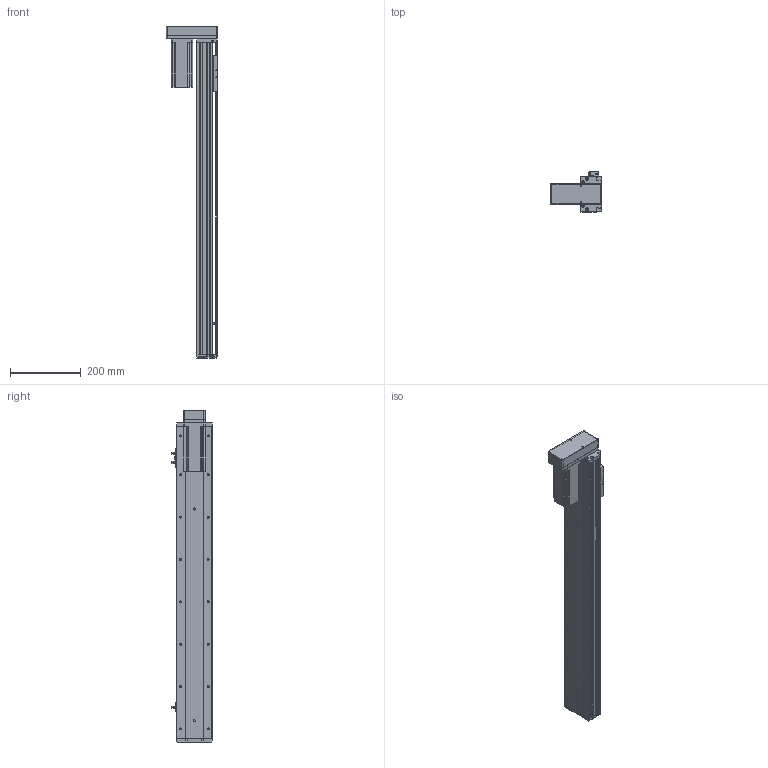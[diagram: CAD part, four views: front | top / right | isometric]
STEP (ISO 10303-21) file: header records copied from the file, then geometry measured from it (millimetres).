
FILE_DESCRIPTION (( 'STEP AP214' ), '1' );
FILE_NAME ('KSD100S-S700-MD-CM.STEP', '2019-08-30T03:36:34', ( '微软用户' ), ( '微软中国' ), 'SwSTEP 2.0', 'SolidWorks 2014', '' );
FILE_SCHEMA (( 'AUTOMOTIVE_DESIGN' ));
Length unit declared in the file: millimetre
Products named in the file (11): KSD100S-S700-MD-CM; 悵誘欶奻狟殏; 100宽马达安装板连板上下折丝杆同步带; 台达ECMA－C20604AS伺服电机; 覜茼え100遵圉猾敕; U倰嫖萇EEㄜSX672; 100宽防尘板丝杆700行程; 100遵鎮湛假蚾啣; 100宽滚珠螺姆安装板半封闭; 100遵傷啣; 100宽底板半封闭丝杆700行程
Assembly tree (12 placements, depth 2):
  KSD100S-S700-MD-CM
    100宽底板半封闭丝杆700行程
    100遵傷啣
    100宽滚珠螺姆安装板半封闭
    100遵鎮湛假蚾啣
    100宽防尘板丝杆700行程
    U倰嫖萇EEㄜSX672  x3
    覜茼え100遵圉猾敕
    台达ECMA－C20604AS伺服电机
    100宽马达安装板连板上下折丝杆同步带
    悵誘欶奻狟殏
Bounding box: 147 x 113.7 x 940.5 mm (x, y, z)
Volume: 2323305.2 mm3; surface area: 742984.8 mm2
Topology: 13 solids, 13 shells, 1275 faces, 3590 edges, 2271 vertices
Faces by surface type: cylinder 628, plane 508, cone 139
Entity records: 45639 total; most frequent: CARTESIAN_POINT 8631, DIRECTION 6049, ORIENTED_EDGE 5808, EDGE_CURVE 2904, AXIS2_PLACEMENT_3D 2205, VERTEX_POINT 1895, LINE 1639, VECTOR 1639
